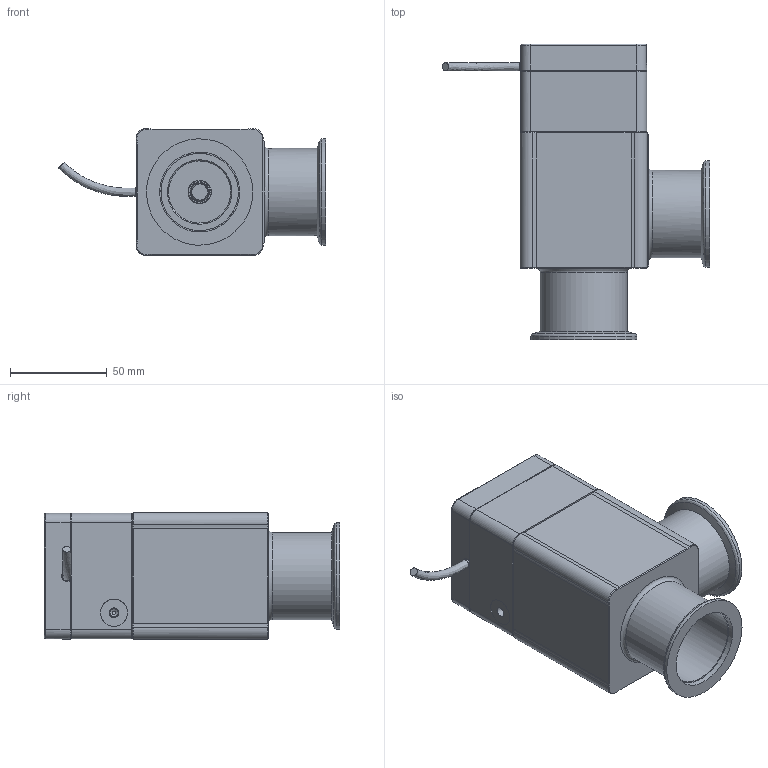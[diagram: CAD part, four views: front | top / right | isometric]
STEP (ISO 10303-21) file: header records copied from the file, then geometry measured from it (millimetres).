
FILE_DESCRIPTION((''),'2;1');
FILE_NAME('C:\TEMP\IDEAS\240331.stp','2006-09-19T15:58:50',('User'),( 'SDRC'),'I-DEAS Master Series 9','UNIX','Yes');
FILE_SCHEMA(('CONFIG_CONTROL_DESIGN'));
Length unit declared in the file: millimetre
Assembly tree (11 placements, depth 0):
Bounding box: 137.88 x 152.7 x 65.6 mm (x, y, z)
Volume: 232910.1 mm3; surface area: 111725.4 mm2
Topology: 19 solids, 19 shells, 550 faces, 1334 edges, 854 vertices
Faces by surface type: bspline 550
Entity records: 16787 total; most frequent: CARTESIAN_POINT 8638, ORIENTED_EDGE 2352, EDGE_CURVE 1176, VERTEX_POINT 754, EDGE_LOOP 532, B_SPLINE_CURVE_WITH_KNOTS 481, FACE_OUTER_BOUND 475, ADVANCED_FACE 475
